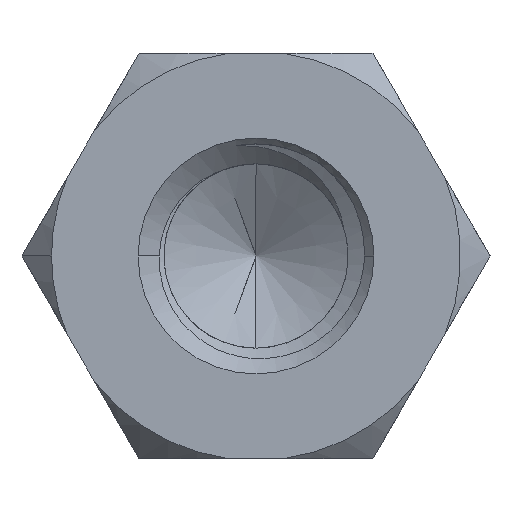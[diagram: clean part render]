
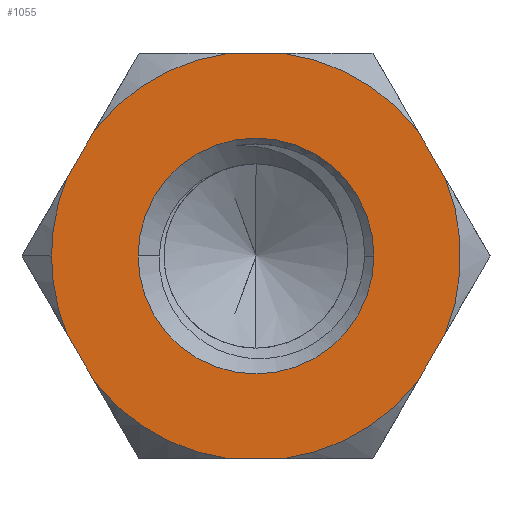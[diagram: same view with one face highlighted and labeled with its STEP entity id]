
A CAD part, front view. The second image highlights one B-rep face of the part: STEP entity #1055.
In plain terms, the highlighted planar face has unit normal (0, -1, 0).
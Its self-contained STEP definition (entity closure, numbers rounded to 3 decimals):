
#33 = LINE ( 'NONE', #1785, #718 ) ;
#35 = CARTESIAN_POINT ( 'NONE',  ( 0.375, 0., -2.75 ) ) ;
#74 = DIRECTION ( 'NONE',  ( 0., 0., 1. ) ) ;
#82 = CIRCLE ( 'NONE', #1623, 2.775 ) ;
#89 = ORIENTED_EDGE ( 'NONE', *, *, #2826, .T. ) ;
#117 = CARTESIAN_POINT ( 'NONE',  ( -2.194, 0., 1.7 ) ) ;
#159 = VECTOR ( 'NONE', #1258, 1000. ) ;
#183 = ORIENTED_EDGE ( 'NONE', *, *, #2345, .T. ) ;
#200 = DIRECTION ( 'NONE',  ( 0., 0., 1. ) ) ;
#211 = ORIENTED_EDGE ( 'NONE', *, *, #1903, .F. ) ;
#237 = EDGE_CURVE ( 'NONE', #2768, #776, #1204, .T. ) ;
#266 = CARTESIAN_POINT ( 'NONE',  ( 2.569, 0., -1.05 ) ) ;
#271 = VERTEX_POINT ( 'NONE', #35 ) ;
#305 = DIRECTION ( 'NONE',  ( 0., -1., 0. ) ) ;
#320 = DIRECTION ( 'NONE',  ( -1., 0., 0. ) ) ;
#326 = DIRECTION ( 'NONE',  ( 0., -1., 0. ) ) ;
#327 = EDGE_CURVE ( 'NONE', #1037, #2573, #2081, .T. ) ;
#330 = DIRECTION ( 'NONE',  ( 0.5, 0., -0.866 ) ) ;
#360 = ORIENTED_EDGE ( 'NONE', *, *, #237, .T. ) ;
#370 = DIRECTION ( 'NONE',  ( -1., 0., 0. ) ) ;
#396 = AXIS2_PLACEMENT_3D ( 'NONE', #518, #326, #551 ) ;
#437 = EDGE_CURVE ( 'NONE', #2634, #448, #1675, .T. ) ;
#445 = DIRECTION ( 'NONE',  ( 0., -1., 0. ) ) ;
#448 = VERTEX_POINT ( 'NONE', #1826 ) ;
#512 = CARTESIAN_POINT ( 'NONE',  ( 0., 0., 0. ) ) ;
#518 = CARTESIAN_POINT ( 'NONE',  ( 0., 0., 0. ) ) ;
#522 = VERTEX_POINT ( 'NONE', #2564 ) ;
#545 = VERTEX_POINT ( 'NONE', #117 ) ;
#551 = DIRECTION ( 'NONE',  ( 0., 0., 1. ) ) ;
#567 = LINE ( 'NONE', #1878, #159 ) ;
#636 = DIRECTION ( 'NONE',  ( 0., -1., 0. ) ) ;
#689 = EDGE_CURVE ( 'NONE', #1535, #545, #82, .T. ) ;
#718 = VECTOR ( 'NONE', #2219, 1000. ) ;
#721 = CARTESIAN_POINT ( 'NONE',  ( -1.588, 0., -2.75 ) ) ;
#737 = EDGE_LOOP ( 'NONE', ( #183, #1276 ) ) ;
#738 = AXIS2_PLACEMENT_3D ( 'NONE', #2185, #2633, #1277 ) ;
#761 = LINE ( 'NONE', #2574, #1210 ) ;
#766 = CARTESIAN_POINT ( 'NONE',  ( 0., 0., 0. ) ) ;
#767 = DIRECTION ( 'NONE',  ( -0.5, 0., 0.866 ) ) ;
#776 = VERTEX_POINT ( 'NONE', #1363 ) ;
#836 = ORIENTED_EDGE ( 'NONE', *, *, #2004, .T. ) ;
#852 = ORIENTED_EDGE ( 'NONE', *, *, #689, .T. ) ;
#865 = ORIENTED_EDGE ( 'NONE', *, *, #929, .F. ) ;
#876 = CARTESIAN_POINT ( 'NONE',  ( 2.194, 0., 1.7 ) ) ;
#890 = DIRECTION ( 'NONE',  ( 0., -1., 0. ) ) ;
#927 = AXIS2_PLACEMENT_3D ( 'NONE', #512, #1406, #74 ) ;
#929 = EDGE_CURVE ( 'NONE', #2198, #2827, #761, .T. ) ;
#930 = CARTESIAN_POINT ( 'NONE',  ( 2.569, 0., 1.05 ) ) ;
#979 = EDGE_CURVE ( 'NONE', #1037, #1455, #2365, .T. ) ;
#993 = CARTESIAN_POINT ( 'NONE',  ( -2.569, 0., 1.05 ) ) ;
#1037 = VERTEX_POINT ( 'NONE', #876 ) ;
#1055 = ADVANCED_FACE ( 'NONE', ( #2852, #1327 ), #2619, .F. ) ;
#1057 = AXIS2_PLACEMENT_3D ( 'NONE', #1110, #890, #1777 ) ;
#1095 = DIRECTION ( 'NONE',  ( 0., -1., 0. ) ) ;
#1099 = VECTOR ( 'NONE', #767, 1000. ) ;
#1110 = CARTESIAN_POINT ( 'NONE',  ( 0., 0., 0. ) ) ;
#1166 = CARTESIAN_POINT ( 'NONE',  ( -2.569, 0., -1.05 ) ) ;
#1204 = CIRCLE ( 'NONE', #1485, 2.775 ) ;
#1210 = VECTOR ( 'NONE', #2544, 1000. ) ;
#1231 = ORIENTED_EDGE ( 'NONE', *, *, #327, .T. ) ;
#1236 = DIRECTION ( 'NONE',  ( 0., 0., 1. ) ) ;
#1258 = DIRECTION ( 'NONE',  ( 1., 0., 0. ) ) ;
#1276 = ORIENTED_EDGE ( 'NONE', *, *, #437, .T. ) ;
#1277 = DIRECTION ( 'NONE',  ( 0., 0., 1. ) ) ;
#1285 = EDGE_CURVE ( 'NONE', #271, #2827, #1564, .T. ) ;
#1291 = CARTESIAN_POINT ( 'NONE',  ( 0., 0., 0. ) ) ;
#1303 = EDGE_CURVE ( 'NONE', #522, #2213, #2089, .T. ) ;
#1327 = FACE_OUTER_BOUND ( 'NONE', #1340, .T. ) ;
#1339 = DIRECTION ( 'NONE',  ( 0., 0., 1. ) ) ;
#1340 = EDGE_LOOP ( 'NONE', ( #1538, #852, #2866, #360, #1462, #1927, #836, #211, #2357, #865, #89, #1969, #1231 ) ) ;
#1363 = CARTESIAN_POINT ( 'NONE',  ( -2.775, 0., 0. ) ) ;
#1406 = DIRECTION ( 'NONE',  ( 0., -1., 0. ) ) ;
#1421 = AXIS2_PLACEMENT_3D ( 'NONE', #1674, #305, #1236 ) ;
#1440 = DIRECTION ( 'NONE',  ( 0., 1., 0. ) ) ;
#1455 = VERTEX_POINT ( 'NONE', #930 ) ;
#1462 = ORIENTED_EDGE ( 'NONE', *, *, #2021, .T. ) ;
#1477 = EDGE_CURVE ( 'NONE', #2768, #545, #33, .T. ) ;
#1485 = AXIS2_PLACEMENT_3D ( 'NONE', #2016, #1095, #2223 ) ;
#1520 = AXIS2_PLACEMENT_3D ( 'NONE', #1291, #445, #1339 ) ;
#1535 = VERTEX_POINT ( 'NONE', #2654 ) ;
#1538 = ORIENTED_EDGE ( 'NONE', *, *, #2783, .F. ) ;
#1564 = CIRCLE ( 'NONE', #1421, 2.775 ) ;
#1570 = CARTESIAN_POINT ( 'NONE',  ( 0., 0., 0. ) ) ;
#1609 = CIRCLE ( 'NONE', #1709, 1.6 ) ;
#1623 = AXIS2_PLACEMENT_3D ( 'NONE', #1570, #636, #200 ) ;
#1669 = CARTESIAN_POINT ( 'NONE',  ( -1.6, 0., 0. ) ) ;
#1674 = CARTESIAN_POINT ( 'NONE',  ( 0., 0., 0. ) ) ;
#1675 = CIRCLE ( 'NONE', #2040, 1.6 ) ;
#1709 = AXIS2_PLACEMENT_3D ( 'NONE', #1748, #2628, #370 ) ;
#1727 = CARTESIAN_POINT ( 'NONE',  ( 1.588, 0., -2.75 ) ) ;
#1748 = CARTESIAN_POINT ( 'NONE',  ( 0., 0., 0. ) ) ;
#1777 = DIRECTION ( 'NONE',  ( 0., 0., 1. ) ) ;
#1785 = CARTESIAN_POINT ( 'NONE',  ( -3.175, 0., 0. ) ) ;
#1826 = CARTESIAN_POINT ( 'NONE',  ( 1.6, 0., 0. ) ) ;
#1878 = CARTESIAN_POINT ( 'NONE',  ( -1.588, 0., 2.75 ) ) ;
#1903 = EDGE_CURVE ( 'NONE', #271, #2268, #1981, .T. ) ;
#1927 = ORIENTED_EDGE ( 'NONE', *, *, #1303, .F. ) ;
#1969 = ORIENTED_EDGE ( 'NONE', *, *, #979, .F. ) ;
#1979 = CIRCLE ( 'NONE', #1520, 2.775 ) ;
#1981 = LINE ( 'NONE', #1727, #2445 ) ;
#2004 = EDGE_CURVE ( 'NONE', #522, #2268, #2111, .T. ) ;
#2016 = CARTESIAN_POINT ( 'NONE',  ( 0., 0., 0. ) ) ;
#2021 = EDGE_CURVE ( 'NONE', #776, #2213, #1979, .T. ) ;
#2040 = AXIS2_PLACEMENT_3D ( 'NONE', #766, #1440, #320 ) ;
#2081 = CIRCLE ( 'NONE', #927, 2.775 ) ;
#2089 = LINE ( 'NONE', #721, #1099 ) ;
#2106 = CARTESIAN_POINT ( 'NONE',  ( 2.194, 0., -1.7 ) ) ;
#2111 = CIRCLE ( 'NONE', #1057, 2.775 ) ;
#2183 = VECTOR ( 'NONE', #330, 1000. ) ;
#2185 = CARTESIAN_POINT ( 'NONE',  ( 0., 0., 0. ) ) ;
#2198 = VERTEX_POINT ( 'NONE', #266 ) ;
#2213 = VERTEX_POINT ( 'NONE', #1166 ) ;
#2219 = DIRECTION ( 'NONE',  ( 0.5, 0., 0.866 ) ) ;
#2223 = DIRECTION ( 'NONE',  ( 0., 0., 1. ) ) ;
#2268 = VERTEX_POINT ( 'NONE', #2799 ) ;
#2300 = CARTESIAN_POINT ( 'NONE',  ( 1.588, 0., 2.75 ) ) ;
#2345 = EDGE_CURVE ( 'NONE', #448, #2634, #1609, .T. ) ;
#2357 = ORIENTED_EDGE ( 'NONE', *, *, #1285, .T. ) ;
#2365 = LINE ( 'NONE', #2300, #2183 ) ;
#2445 = VECTOR ( 'NONE', #2865, 1000. ) ;
#2530 = CIRCLE ( 'NONE', #396, 2.775 ) ;
#2544 = DIRECTION ( 'NONE',  ( -0.5, 0., -0.866 ) ) ;
#2564 = CARTESIAN_POINT ( 'NONE',  ( -2.194, 0., -1.7 ) ) ;
#2573 = VERTEX_POINT ( 'NONE', #2680 ) ;
#2574 = CARTESIAN_POINT ( 'NONE',  ( 3.175, 0., 0. ) ) ;
#2619 = PLANE ( 'NONE',  #738 ) ;
#2628 = DIRECTION ( 'NONE',  ( 0., 1., 0. ) ) ;
#2633 = DIRECTION ( 'NONE',  ( 0., 1., 0. ) ) ;
#2634 = VERTEX_POINT ( 'NONE', #1669 ) ;
#2654 = CARTESIAN_POINT ( 'NONE',  ( -0.375, 0., 2.75 ) ) ;
#2680 = CARTESIAN_POINT ( 'NONE',  ( 0.375, 0., 2.75 ) ) ;
#2768 = VERTEX_POINT ( 'NONE', #993 ) ;
#2783 = EDGE_CURVE ( 'NONE', #1535, #2573, #567, .T. ) ;
#2799 = CARTESIAN_POINT ( 'NONE',  ( -0.375, 0., -2.75 ) ) ;
#2826 = EDGE_CURVE ( 'NONE', #2198, #1455, #2530, .T. ) ;
#2827 = VERTEX_POINT ( 'NONE', #2106 ) ;
#2852 = FACE_BOUND ( 'NONE', #737, .T. ) ;
#2865 = DIRECTION ( 'NONE',  ( -1., 0., 0. ) ) ;
#2866 = ORIENTED_EDGE ( 'NONE', *, *, #1477, .F. ) ;
